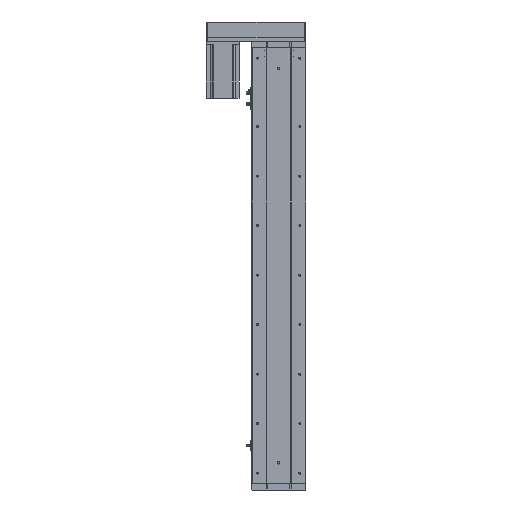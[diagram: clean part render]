
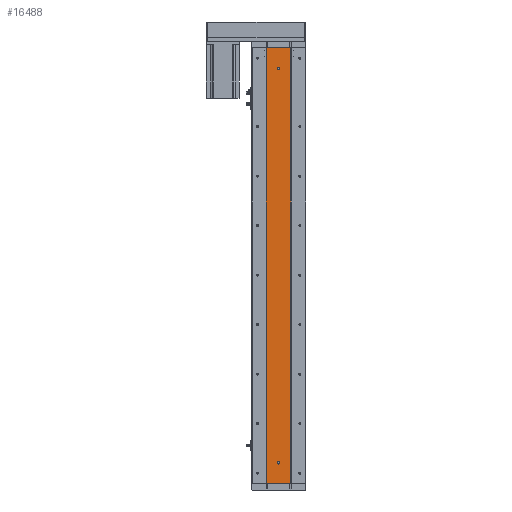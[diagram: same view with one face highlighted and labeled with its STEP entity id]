
A CAD part, left-side view. The second image highlights one B-rep face of the part: STEP entity #16488.
In plain terms, the highlighted planar face has unit normal (-1, 0, 0).
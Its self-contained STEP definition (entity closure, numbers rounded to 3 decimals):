
#17 = CARTESIAN_POINT ( 'NONE',  ( -24.994, 29.785, 1056. ) ) ;
#84 = CARTESIAN_POINT ( 'NONE',  ( -24.994, 29.785, 1056. ) ) ;
#281 = CARTESIAN_POINT ( 'NONE',  ( -24.994, 29.785, 0. ) ) ;
#952 = CARTESIAN_POINT ( 'NONE',  ( -24.994, 0., 1009. ) ) ;
#1637 = DIRECTION ( 'NONE',  ( 0., 0., -1. ) ) ;
#1882 = CARTESIAN_POINT ( 'NONE',  ( -24.994, 0., 47. ) ) ;
#4199 = ORIENTED_EDGE ( 'NONE', *, *, #15854, .F. ) ;
#4601 = AXIS2_PLACEMENT_3D ( 'NONE', #26993, #4644, #30786 ) ;
#4644 = DIRECTION ( 'NONE',  ( -1., 0., 0. ) ) ;
#5153 = VECTOR ( 'NONE', #42483, 1000. ) ;
#5553 = VERTEX_POINT ( 'NONE', #281 ) ;
#6317 = EDGE_CURVE ( 'NONE', #9744, #22626, #32432, .T. ) ;
#6936 = VECTOR ( 'NONE', #10262, 1000. ) ;
#7398 = FACE_OUTER_BOUND ( 'NONE', #13943, .T. ) ;
#8826 = DIRECTION ( 'NONE',  ( 0., -1., 0. ) ) ;
#8876 = PLANE ( 'NONE',  #19612 ) ;
#9465 = CARTESIAN_POINT ( 'NONE',  ( -24.994, -29.785, 0. ) ) ;
#9744 = VERTEX_POINT ( 'NONE', #13016 ) ;
#10161 = CARTESIAN_POINT ( 'NONE',  ( -24.994, -29.785, 1056. ) ) ;
#10262 = DIRECTION ( 'NONE',  ( 0., 0., -1. ) ) ;
#10716 = AXIS2_PLACEMENT_3D ( 'NONE', #14263, #40369, #18029 ) ;
#10800 = LINE ( 'NONE', #17, #25912 ) ;
#11224 = CIRCLE ( 'NONE', #45697, 3. ) ;
#11635 = EDGE_CURVE ( 'NONE', #22626, #9744, #17219, .T. ) ;
#11975 = VECTOR ( 'NONE', #8826, 1000. ) ;
#13016 = CARTESIAN_POINT ( 'NONE',  ( -24.994, 0., 1003. ) ) ;
#13674 = ORIENTED_EDGE ( 'NONE', *, *, #6317, .F. ) ;
#13919 = VERTEX_POINT ( 'NONE', #21441 ) ;
#13943 = EDGE_LOOP ( 'NONE', ( #41639, #4199, #28217, #33339 ) ) ;
#14263 = CARTESIAN_POINT ( 'NONE',  ( -24.994, 0., 1006. ) ) ;
#15523 = EDGE_LOOP ( 'NONE', ( #22394, #13674 ) ) ;
#15854 = EDGE_CURVE ( 'NONE', #42699, #22820, #26775, .T. ) ;
#16488 = ADVANCED_FACE ( 'NONE', ( #18524, #46019, #7398 ), #8876, .F. ) ;
#17219 = CIRCLE ( 'NONE', #10716, 3. ) ;
#18029 = DIRECTION ( 'NONE',  ( 0., 0., 1. ) ) ;
#18524 = FACE_BOUND ( 'NONE', #15523, .T. ) ;
#18665 = DIRECTION ( 'NONE',  ( -1., 0., 0. ) ) ;
#19289 = EDGE_CURVE ( 'NONE', #5553, #22820, #44952, .T. ) ;
#19323 = DIRECTION ( 'NONE',  ( 0., 0., 1. ) ) ;
#19507 = DIRECTION ( 'NONE',  ( -1., 0., 0. ) ) ;
#19612 = AXIS2_PLACEMENT_3D ( 'NONE', #46478, #24021, #1637 ) ;
#19943 = CARTESIAN_POINT ( 'NONE',  ( -24.994, 0., 1006. ) ) ;
#20985 = EDGE_CURVE ( 'NONE', #25642, #42699, #21899, .T. ) ;
#21441 = CARTESIAN_POINT ( 'NONE',  ( -24.994, 0., 53. ) ) ;
#21510 = CARTESIAN_POINT ( 'NONE',  ( -24.994, -29.785, 1056. ) ) ;
#21899 = LINE ( 'NONE', #31018, #11975 ) ;
#22394 = ORIENTED_EDGE ( 'NONE', *, *, #11635, .F. ) ;
#22626 = VERTEX_POINT ( 'NONE', #952 ) ;
#22820 = VERTEX_POINT ( 'NONE', #9465 ) ;
#22979 = ORIENTED_EDGE ( 'NONE', *, *, #45128, .F. ) ;
#24021 = DIRECTION ( 'NONE',  ( 1., 0., 0. ) ) ;
#25536 = EDGE_LOOP ( 'NONE', ( #27939, #22979 ) ) ;
#25642 = VERTEX_POINT ( 'NONE', #84 ) ;
#25912 = VECTOR ( 'NONE', #29932, 1000. ) ;
#26775 = LINE ( 'NONE', #21510, #6936 ) ;
#26993 = CARTESIAN_POINT ( 'NONE',  ( -24.994, 0., 50. ) ) ;
#27543 = CARTESIAN_POINT ( 'NONE',  ( -24.994, 29.785, 0. ) ) ;
#27939 = ORIENTED_EDGE ( 'NONE', *, *, #29273, .F. ) ;
#28217 = ORIENTED_EDGE ( 'NONE', *, *, #20985, .F. ) ;
#28675 = CIRCLE ( 'NONE', #4601, 3. ) ;
#29273 = EDGE_CURVE ( 'NONE', #13919, #39451, #11224, .T. ) ;
#29932 = DIRECTION ( 'NONE',  ( 0., 0., -1. ) ) ;
#30786 = DIRECTION ( 'NONE',  ( 0., 0., 1. ) ) ;
#30950 = EDGE_CURVE ( 'NONE', #25642, #5553, #10800, .T. ) ;
#31018 = CARTESIAN_POINT ( 'NONE',  ( -24.994, 29.785, 1056. ) ) ;
#31603 = AXIS2_PLACEMENT_3D ( 'NONE', #19943, #18665, #19323 ) ;
#32432 = CIRCLE ( 'NONE', #31603, 3. ) ;
#33339 = ORIENTED_EDGE ( 'NONE', *, *, #30950, .T. ) ;
#39451 = VERTEX_POINT ( 'NONE', #1882 ) ;
#40369 = DIRECTION ( 'NONE',  ( -1., 0., 0. ) ) ;
#41639 = ORIENTED_EDGE ( 'NONE', *, *, #19289, .T. ) ;
#41866 = CARTESIAN_POINT ( 'NONE',  ( -24.994, 0., 50. ) ) ;
#42483 = DIRECTION ( 'NONE',  ( 0., -1., 0. ) ) ;
#42699 = VERTEX_POINT ( 'NONE', #10161 ) ;
#44952 = LINE ( 'NONE', #27543, #5153 ) ;
#45128 = EDGE_CURVE ( 'NONE', #39451, #13919, #28675, .T. ) ;
#45639 = DIRECTION ( 'NONE',  ( 0., 0., 1. ) ) ;
#45697 = AXIS2_PLACEMENT_3D ( 'NONE', #41866, #19507, #45639 ) ;
#46019 = FACE_BOUND ( 'NONE', #25536, .T. ) ;
#46478 = CARTESIAN_POINT ( 'NONE',  ( -24.994, 29.785, 1056. ) ) ;
